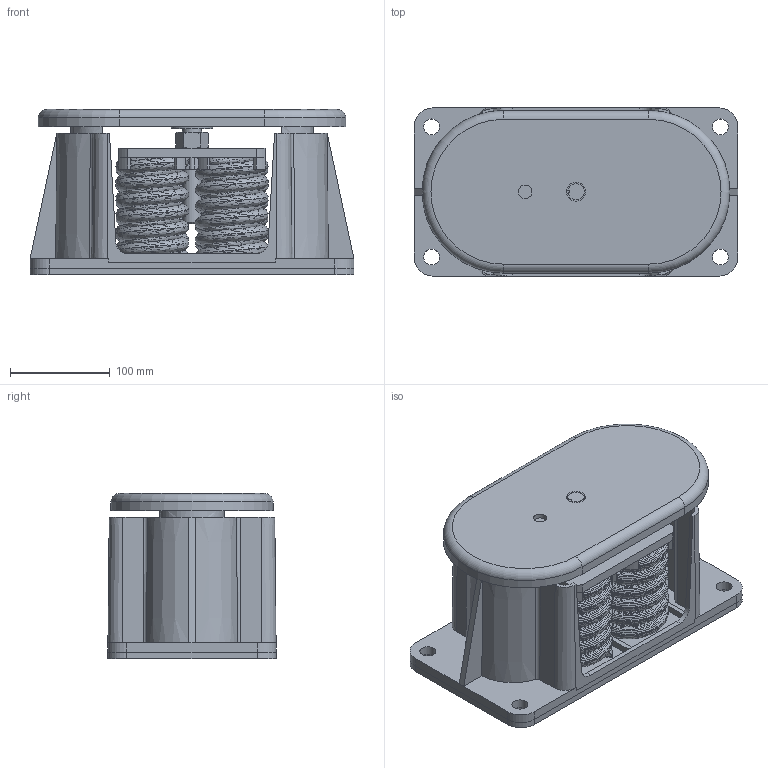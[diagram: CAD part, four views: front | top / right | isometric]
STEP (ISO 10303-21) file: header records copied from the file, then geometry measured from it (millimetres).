
FILE_DESCRIPTION(/* description */ (''),/* implementation_level */ '2;1');
FILE_NAME(/* name */ 'C:\001_Work\Designs\C MOUNTS\CI-E, E2\CI-E-11740.stp',/* time_stamp */ '2015-12-08T10:56:26-05:00',/* author */ ('rramoutar'),/* organization */ ('Mason Industries Inc.'),/* preprocessor_version */ 'ST-DEVELOPER v15.6',/* originating_system */ 'Autodesk Inventor 2015',/* authorisation */ '');
FILE_SCHEMA (('CONFIG_CONTROL_DESIGN'));
Products named in the file (1): CI-E-11740
Bounding box: 323.85 x 168.28 x 165.1 mm (x, y, z)
Volume: 2120457.6 mm3; surface area: 856869.5 mm2
Topology: 14 solids, 18 shells, 470 faces, 1234 edges, 807 vertices
Faces by surface type: plane 239, cylinder 100, bspline 94, cone 33, torus 4
Full cylindrical faces by diameter (mm): 13.386 x1, 15.875 x8, 19.05 x2, 20.637 x2, 41.275 x1
Entity records: 54152 total; most frequent: CARTESIAN_POINT 42693, ORIENTED_EDGE 2422, DIRECTION 1966, EDGE_CURVE 1211, VERTEX_POINT 801, AXIS2_PLACEMENT_3D 658, LINE 650, VECTOR 650
